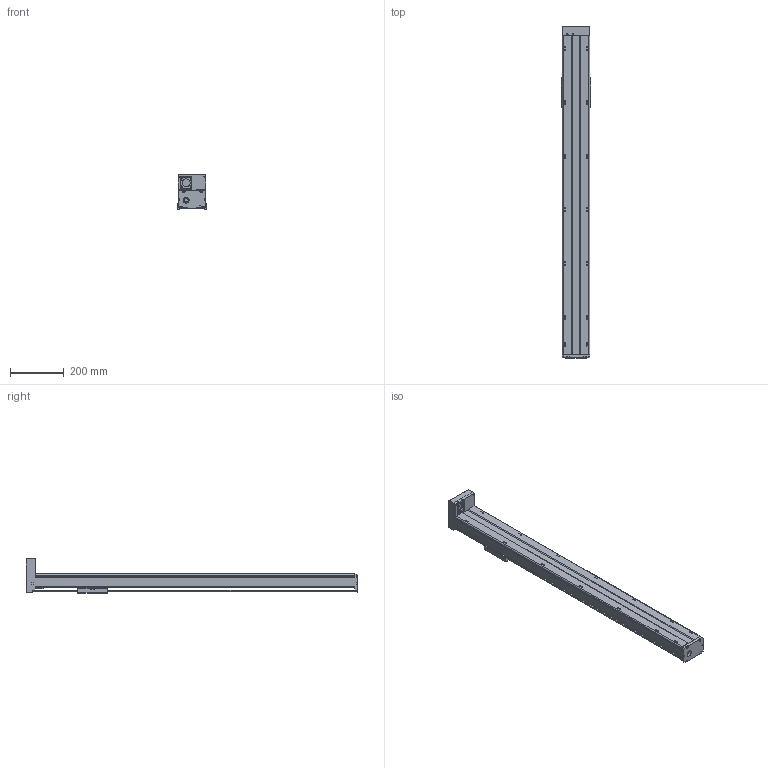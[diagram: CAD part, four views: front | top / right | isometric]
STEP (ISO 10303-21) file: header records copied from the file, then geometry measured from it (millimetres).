
FILE_DESCRIPTION(/* description */ (''),/* implementation_level */ '2;1');
FILE_NAME(/* name */ 'TKA100-FD-1000_asm1.stp',/* time_stamp */ '2016-05-16T15:35:49+08:00',/* author */ (''),/* organization */ (''),/* preprocessor_version */ 'ST-DEVELOPER v15',/* originating_system */ 'SIEMENS PLM Software NX 8.5',/* authorisation */ '');
FILE_SCHEMA (('AUTOMOTIVE_DESIGN { 1 0 10303 214 3 1 1 1 }'));
Length unit declared in the file: millimetre
Products named in the file (3): 200-02; 200-01; TKA100-FD-1000_asm1
Assembly tree (2 placements, depth 2):
  TKA100-FD-1000_asm1
    200-01
    200-02
Bounding box: 110 x 1236 x 127 mm (x, y, z)
Volume: 2530238.8 mm3; surface area: 879293.1 mm2
Topology: 2 solids, 13 shells, 811 faces, 2094 edges, 1362 vertices
Faces by surface type: cylinder 317, plane 303, cone 127, torus 38, bspline 26
Full cylindrical faces by diameter (mm): 2.5 x6, 2.6 x8, 3.3 x10, 3.4 x10, 3.8 x8, 4.2 x23, 4.3 x4, 4.5 x8, 5 x1, 5.5 x24, 6.6 x4, 8 x5, 9 x4, 10 x16, 11 x4, 12 x7, 15.3 x1, 16 x1, 22 x1, 24 x1, 28 x4, 30 x1, 33 x1
Entity records: 28764 total; most frequent: CARTESIAN_POINT 10095, DIRECTION 3902, ORIENTED_EDGE 3508, EDGE_CURVE 1754, AXIS2_PLACEMENT_3D 1570, VERTEX_POINT 1268, EDGE_LOOP 1176, ADVANCED_FACE 811
